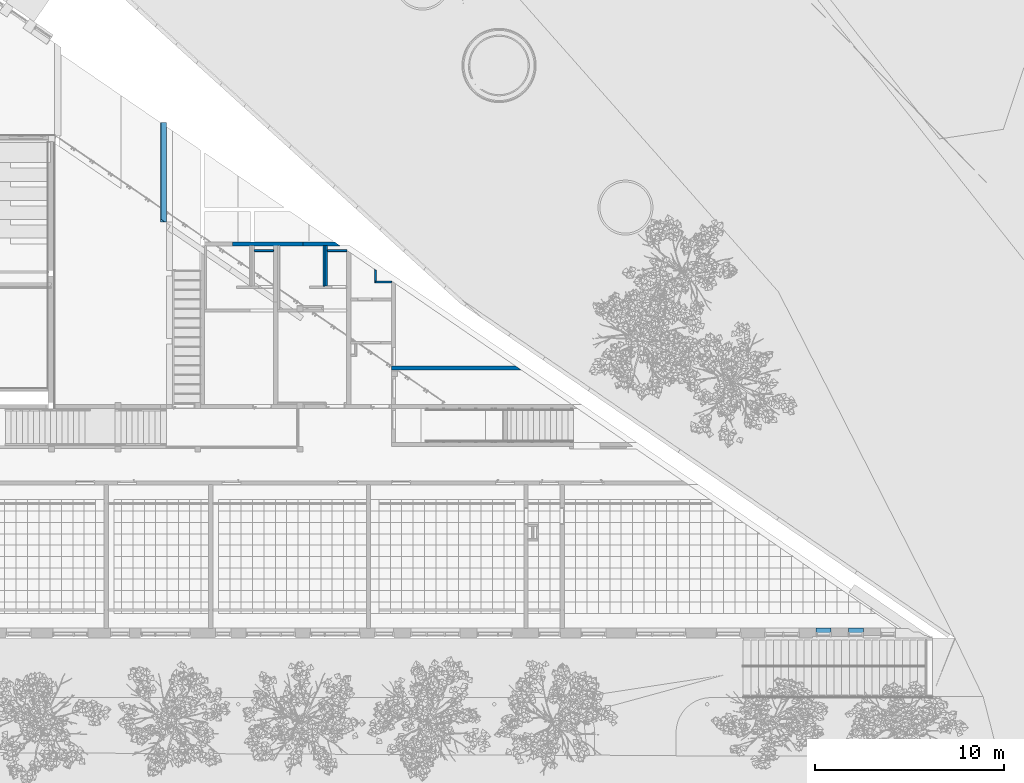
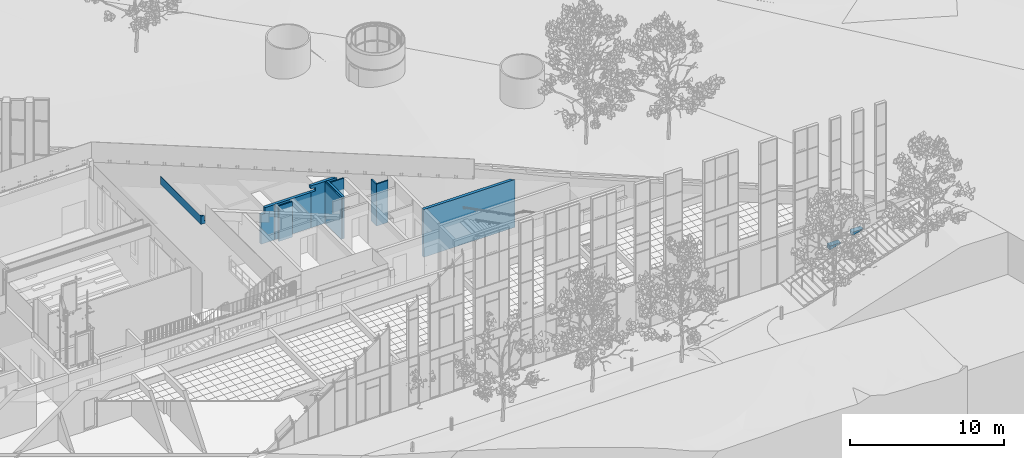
# One storey, part 137 of 246: 12 walls.
"""IFC2X3 building model written with IfcOpenShell, lengths in millimetres."""

from ifc_helpers import new_model, entity, si_unit, converted_unit, derived_unit, money_unit, direction, frame, origin_with_axes, place, context, subcontext, project, spatial, faceted_brep, material, material_list, type_object, element, save


model = new_model("IFC2X3")

# Units and contexts
model_context = context("Model", 3, precision=0.01, world=origin_with_axes(), true_north=direction((0.0, 1.0)))
body_context = subcontext(model_context, "Body", "Model", "MODEL_VIEW")
ifc_project = project(units=[si_unit("LENGTHUNIT", "METRE", prefix="MILLI"), si_unit("AREAUNIT", "SQUARE_METRE"), si_unit("VOLUMEUNIT", "CUBIC_METRE"), converted_unit("PLANEANGLEUNIT", "DEGREE", entity("IfcPlaneAngleMeasure", 0.0174532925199), si_unit("PLANEANGLEUNIT", "RADIAN"), dimensions=[0, 0, 0, 0, 0, 0, 0]), si_unit("SOLIDANGLEUNIT", "STERADIAN"), money_unit("EUR"), converted_unit("TIMEUNIT", "Year", entity("IfcTimeMeasure", 31556926.0), si_unit("TIMEUNIT", "SECOND"), dimensions=[0, 0, 1, 0, 0, 0, 0]), si_unit("MASSUNIT", "GRAM", prefix="KILO"), si_unit("THERMODYNAMICTEMPERATUREUNIT", "DEGREE_CELSIUS"), si_unit("LUMINOUSINTENSITYUNIT", "LUMEN"), si_unit("ENERGYUNIT", "JOULE", prefix="MEGA"), derived_unit("THERMALCONDUCTANCEUNIT", [(si_unit("POWERUNIT", "WATT"), 1), (si_unit("LENGTHUNIT", "METRE"), -1), (si_unit("THERMODYNAMICTEMPERATUREUNIT", "KELVIN"), -1)]), derived_unit("SPECIFICHEATCAPACITYUNIT", [(si_unit("ENERGYUNIT", "JOULE"), 1), (si_unit("MASSUNIT", "GRAM", prefix="KILO"), -1), (si_unit("THERMODYNAMICTEMPERATUREUNIT", "KELVIN"), -1)]), derived_unit("MASSDENSITYUNIT", [(si_unit("MASSUNIT", "GRAM", prefix="KILO"), 1), (si_unit("VOLUMEUNIT", "CUBIC_METRE"), -1)])], contexts=[model_context])

# Site, building, storey
site_placement = place(None, origin_with_axes())
site = spatial("IfcSite", under=ifc_project, at=site_placement, Name="L.Koidula tn 11b", CompositionType="ELEMENT")
building_placement = place(site_placement, origin_with_axes())
building = spatial("IfcBuilding", under=site, at=building_placement, Name="Rakvere Riigigümnaasium", CompositionType="ELEMENT")
storey_placement = place(building_placement, origin_with_axes())
storey = spatial("IfcBuildingStorey", under=building, at=storey_placement, Name="1.korrus 0,00", CompositionType="ELEMENT", Elevation=0.0)

# Walls
ifc_material_1 = material(Name="siseviimistlus-seinad")
ifc_material_2 = material(Name="Betoon element / plaat")
ifc_material_list_1 = material_list([ifc_material_1, ifc_material_2, ifc_material_1])
wall_type_1 = type_object("IfcWallType", Name="SS-01-2 220", PredefinedType="NOTDEFINED")
wall_1_placement = place(storey_placement, frame((82837.9762117, 19135.3890009, 0.0), z_axis=(0.0, 0.0, 1.0), x_axis=(-1.0, 0.0, 0.0)))
element("IfcWall", 1, at=wall_1_placement, inside=storey, type_object=wall_type_1, material=ifc_material_list_1, Name="Sisesein", context=body_context, shape_type="Brep", body=[
    faceted_brep([(-7.58859641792e-08, 5.20472553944e-08, 3790.0), (-14.5798724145, 10.0000000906, 3790.0), (-14.5798722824, 10.0, 0.0), (0.0, 0.0, 0.0), (6647.99483758, 10.0000006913, 3790.0), (6647.99482935, 3.92333276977e-07, 3790.0), (6647.99483758, 10.0, 0.0), (6647.99482935, 0.0, 0.0)], [[[0, 1, 2, 3]], [[4, 1, 0, 5]], [[1, 4, 6, 2]], [[2, 6, 7, 3]], [[5, 0, 3, 7]], [[4, 5, 7, 6]]]),
    faceted_brep([(291.597445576, -199.99999995, 3790.0), (-7.58859641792e-08, 5.20472553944e-08, 3790.0), (0.0, 0.0, 0.0), (291.597445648, -200.0, 0.0), (6847.99482935, 3.55303342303e-07, 3790.0), (6847.9948138, -199.999999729, 3790.0), (6847.99482935, 0.0, 0.0), (6847.99466465, -200.0, 0.0)], [[[0, 1, 2, 3]], [[4, 1, 0, 5]], [[1, 4, 6, 2]], [[2, 6, 7, 3]], [[5, 0, 3, 7]], [[4, 5, 7, 6]]]),
    faceted_brep([(306.177317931, -210.0, 3790.0), (291.597445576, -199.99999995, 3790.0), (291.597445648, -200.0, 0.0), (306.177317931, -210.0, 0.0), (6847.99482935, -199.999999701, 3790.0), (6847.99482935, -210.0, 3790.0), (6857.9946774, -210.0, 3789.99999702), (6857.99468564, -199.999999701, 3789.99999702), (6857.99468564, -200.0, 0.0), (6857.9946774, -210.0, 0.0)], [[[0, 1, 2, 3]], [[4, 1, 0, 5, 6, 7]], [[1, 4, 7, 8, 2]], [[2, 8, 9, 3]], [[5, 0, 3, 9, 6]], [[8, 7, 6, 9]]]),
])
ifc_material_list_2 = material_list([ifc_material_2, ifc_material_1])
wall_type_2 = type_object("IfcWallType", Name="SS-01-1 210", PredefinedType="NOTDEFINED")
wall_2_placement = place(storey_placement, frame((67576.1373235, 25699.437232, 0.0), z_axis=(0.0, 0.0, 1.0), x_axis=(1.0, 0.0, 0.0)))
element("IfcWall", 2, at=wall_2_placement, inside=storey, type_object=wall_type_2, material=ifc_material_list_2, Name="Sisesein", context=body_context, shape_type="Brep", body=[
    faceted_brep([(288.872178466, 200.0, 2345.0), (288.872178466, 200.0, 2610.0), (288.872178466, 200.0, 2810.0), (3725.0, 200.0, 2810.0), (3725.0, 200.0, 0.0), (0.0, 200.0, 0.0), (0.0, 200.0, 2345.0), (288.872178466, 0.0, 2345.0), (288.872178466, 0.0, 2610.0), (288.872178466, 0.0, 2810.0), (3725.0, 0.0, 2810.0), (3725.0, 0.0, 0.0), (0.0, 0.0, 0.0), (0.0, 0.0, 2345.0)], [[[0, 1, 2, 3, 4, 5, 6]], [[7, 8, 1, 0]], [[8, 9, 2, 1]], [[3, 2, 9, 10]], [[11, 4, 3, 10]], [[11, 12, 5, 4]], [[5, 12, 13, 6]], [[13, 7, 0, 6]], [[10, 9, 8, 7, 13, 12, 11]]]),
    faceted_brep([(288.872178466, 0.0, 2345.0), (288.872178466, 0.0, 2790.0), (288.872178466, 0.0, 2810.0), (962.850013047, 0.0, 2810.0), (962.850013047, 0.0, 0.0), (0.0, 0.0, 0.0), (0.0, 0.0, 2345.0), (288.872178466, -10.0, 2345.0), (288.872178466, -10.0, 2790.0), (288.872178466, -10.0, 2810.0), (962.850013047, -10.0, 2810.0), (962.850013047, -10.0, 0.0), (0.0, -10.0, 0.0), (0.0, -10.0, 2345.0)], [[[0, 1, 2, 3, 4, 5, 6]], [[7, 8, 1, 0]], [[8, 9, 2, 1]], [[3, 2, 9, 10]], [[11, 4, 3, 10]], [[12, 5, 4, 11]], [[5, 12, 13, 6]], [[13, 7, 0, 6]], [[10, 9, 8, 7, 13, 12, 11]]]),
    faceted_brep([(1028.85001305, 0.0, 2810.0), (1038.85001305, 0.0, 2810.0), (1038.85001305, 0.0, 0.0), (1028.85001305, 0.0, 0.0), (1038.85001305, -10.0, 2810.0), (1028.85001305, -10.0, 2810.0), (1038.85001305, -10.0, 0.0), (1028.85001305, -10.0, 0.0)], [[[0, 1, 2, 3]], [[4, 1, 0, 5]], [[1, 4, 6, 2]], [[2, 6, 7, 3]], [[5, 0, 3, 7]], [[4, 5, 7, 6]]]),
    faceted_brep([(1158.85001305, 0.0, 2810.0), (2398.85000631, 0.0, 2810.0), (2398.85000631, 0.0, 0.0), (1158.85001305, 0.0, 0.0), (2398.85000631, -10.0, 2810.0), (1158.85001305, -10.0, 2810.0), (2398.85000631, -10.0, 0.0), (1158.85001305, -10.0, 0.0)], [[[0, 1, 2, 3]], [[4, 1, 0, 5]], [[1, 4, 6, 2]], [[2, 6, 7, 3]], [[5, 0, 3, 7]], [[4, 5, 7, 6]]]),
    faceted_brep([(2464.85000631, 0.0, 2810.0), (3725.0, 0.0, 2810.0), (3725.0, 0.0, 0.0), (2464.85000631, 0.0, 0.0), (3725.0, -10.0, 2810.0), (2464.85000631, -10.0, 2810.0), (3725.0, -10.0, 0.0), (2464.85000631, -10.0, 0.0)], [[[0, 1, 2, 3]], [[4, 1, 0, 5]], [[1, 4, 6, 2]], [[3, 2, 6, 7]], [[5, 0, 3, 7]], [[4, 5, 7, 6]]]),
])
wall_3_placement = place(storey_placement, frame((71301.1373235, 25699.437232, 0.0), z_axis=(0.0, 0.0, 1.0), x_axis=(1.0, 0.0, 0.0)))
element("IfcWall", 3, at=wall_3_placement, inside=storey, type_object=wall_type_2, material=ifc_material_list_2, Name="Sisesein", context=body_context, shape_type="Brep", body=[
    faceted_brep([(0.0, 200.0, 2810.0), (358.860839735, 200.0, 2810.0), (358.860839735, 200.0, 3075.0), (0.0, 200.0, 3075.0), (0.0, 200.0, 3325.0), (1674.9279648, 200.0, 3325.0), (1674.9279648, 200.0, 0.0), (0.0, 200.0, 0.0), (0.0, 0.0, 2810.0), (358.860835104, 0.0, 2810.0), (358.860835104, 0.0, 3075.0), (0.0, 0.0, 3075.0), (0.0, 0.0, 3325.0), (1966.52463822, 0.0, 3325.0), (1966.52463822, 0.0, 0.0), (0.0, 0.0, 0.0)], [[[0, 1, 2, 3, 4, 5, 6, 7]], [[1, 0, 8, 9]], [[2, 1, 9, 10]], [[3, 2, 10, 11]], [[3, 11, 12, 4]], [[13, 5, 4, 12]], [[14, 6, 5, 13]], [[6, 14, 15, 7]], [[8, 0, 7, 15]], [[9, 8, 15, 14, 13, 12, 11, 10]]]),
    faceted_brep([(38.8607494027, -10.0, 3255.0), (38.8607494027, 0.0, 3255.0), (38.8607494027, 0.0, 3325.0), (38.8607494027, -10.0, 3325.0), (0.0, 0.0, 3255.0), (0.0, -10.0, 3255.0), (0.0, 0.0, 3325.0), (0.0, -10.0, 3325.0)], [[[0, 1, 2, 3]], [[4, 1, 0, 5]], [[1, 4, 6, 2]], [[7, 3, 2, 6]], [[5, 0, 3, 7]], [[4, 5, 7, 6]]]),
    faceted_brep([(0.0, 0.0, 2810.0), (358.860835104, 0.0, 2810.0), (358.860835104, 0.0, 3075.0), (358.860749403, 0.0, 3325.0), (1178.86085415, 0.0, 3325.0), (1178.86085415, 0.0, 0.0), (1168.86085415, 0.0, 0.0), (1168.86085415, 0.0, 3255.0), (1102.86085415, 0.0, 3255.0), (1102.86085415, 0.0, 0.0), (0.0, 0.0, 0.0), (0.0, -10.0, 2810.0), (358.860834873, -10.0, 2810.0), (358.860834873, -10.0, 3075.0), (358.860749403, -10.0, 3325.0), (1178.86085415, -10.0, 3325.0), (1178.86085415, -10.0, 0.0), (1168.86085415, -10.0, 0.0), (1168.86085415, -10.0, 3255.0), (1102.86085415, -10.0, 3255.0), (1102.86085415, -10.0, 0.0), (0.0, -10.0, 0.0)], [[[0, 1, 2, 3, 4, 5, 6, 7, 8, 9, 10]], [[1, 0, 11, 12]], [[2, 1, 12, 13, 14, 3]], [[4, 3, 14, 15]], [[15, 16, 5, 4]], [[16, 17, 6, 5]], [[18, 7, 6, 17]], [[19, 8, 7, 18]], [[20, 9, 8, 19]], [[10, 9, 20, 21]], [[11, 0, 10, 21]], [[12, 11, 21, 20, 19, 18, 17, 16, 15, 14, 13]]]),
    faceted_brep([(1981.10447189, -10.0, 0.0), (1298.86085415, -10.0, 0.0), (1298.86085415, 0.0, 0.0), (1966.52463822, 0.0, 0.0), (1981.10447189, -10.0, 3325.0), (1298.86085415, -10.0, 3325.0), (1298.86085415, 0.0, 3325.0), (1966.52463822, 0.0, 3325.0)], [[[0, 1, 2, 3]], [[4, 5, 1, 0]], [[2, 1, 5, 6]], [[3, 2, 6, 7]], [[3, 7, 4, 0]], [[7, 6, 5, 4]]]),
])
ifc_material_3 = material(Name="FF-PIR soojustus-2")
ifc_material_4 = material(Name="Betoon-element")
ifc_material_5 = material(Name="Krohv")
ifc_material_list_3 = material_list([ifc_material_3, ifc_material_4, ifc_material_5])
wall_type_3 = type_object("IfcWallType", Name="VS-01-3 390", PredefinedType="NOTDEFINED")
wall_4_placement = place(storey_placement, frame((99199.9657125, 5500.45553887, 1229.40615321), z_axis=(0.0, 0.0, 1.0), x_axis=(-1.0, 0.0, 0.0)))
element("IfcWall", 4, at=wall_4_placement, inside=storey, type_object=wall_type_3, material=ifc_material_list_3, Name="Välissein", context=body_context, shape_type="Brep", body=[
    faceted_brep([(0.0, 380.0, 256.235960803), (0.0, 200.0, 256.235960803), (0.0, 200.0, 308.093847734), (0.0, 380.0, 308.093847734), (800.0, 200.0, 0.0), (800.0, 380.0, 0.0), (800.0, 200.0, 308.093847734), (800.0, 380.0, 308.093847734)], [[[0, 1, 2, 3]], [[4, 1, 0, 5]], [[1, 4, 6, 2]], [[2, 6, 7, 3]], [[5, 0, 3, 7]], [[4, 5, 7, 6]]]),
    faceted_brep([(0.0, 200.0, 256.235960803), (0.0, 0.0, 256.235960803), (0.0, 0.0, 308.093847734), (0.0, 200.0, 308.093847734), (800.0, 0.0, 0.0), (800.0, 200.0, 0.0), (800.0, 0.0, 308.093847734), (800.0, 200.0, 308.093847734)], [[[0, 1, 2, 3]], [[4, 1, 0, 5]], [[1, 4, 6, 2]], [[2, 6, 7, 3]], [[5, 0, 3, 7]], [[4, 5, 7, 6]]]),
    faceted_brep([(0.0, 0.0, 256.235960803), (0.0, -10.0, 256.235960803), (0.0, -10.0, 308.093847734), (0.0, 0.0, 308.093847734), (800.0, -10.0, 0.0), (800.0, 0.0, 0.0), (800.0, -10.0, 308.093847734), (800.0, 0.0, 308.093847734)], [[[0, 1, 2, 3]], [[4, 1, 0, 5]], [[1, 4, 6, 2]], [[2, 6, 7, 3]], [[5, 0, 3, 7]], [[4, 5, 7, 6]]]),
])
wall_5_placement = place(storey_placement, frame((100899.965712, 5500.45553887, 1773.90756991), z_axis=(0.0, 0.0, 1.0), x_axis=(-1.0, 0.0, 0.0)))
element("IfcWall", 5, at=wall_5_placement, inside=storey, type_object=wall_type_3, material=ifc_material_list_3, Name="Välissein", context=body_context, shape_type="Brep", body=[
    faceted_brep([(0.0, 380.0, 256.235960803), (0.0, 200.0, 256.235960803), (0.0, 200.0, 274.092430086), (0.0, 380.0, 274.092430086), (800.0, 200.0, 0.0), (800.0, 380.0, 0.0), (800.0, 200.0, 274.092430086), (800.0, 380.0, 274.092430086)], [[[0, 1, 2, 3]], [[4, 1, 0, 5]], [[1, 4, 6, 2]], [[2, 6, 7, 3]], [[5, 0, 3, 7]], [[4, 5, 7, 6]]]),
    faceted_brep([(0.0, 200.0, 256.235960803), (0.0, 0.0, 256.235960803), (0.0, 0.0, 274.092430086), (0.0, 200.0, 274.092430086), (800.0, 0.0, 0.0), (800.0, 200.0, 0.0), (800.0, 0.0, 274.092430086), (800.0, 200.0, 274.092430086)], [[[0, 1, 2, 3]], [[4, 1, 0, 5]], [[1, 4, 6, 2]], [[2, 6, 7, 3]], [[5, 0, 3, 7]], [[4, 5, 7, 6]]]),
    faceted_brep([(0.0, 0.0, 256.235960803), (0.0, -10.0, 256.235960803), (0.0, -10.0, 274.092430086), (0.0, 0.0, 274.092430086), (800.0, -10.0, 0.0), (800.0, 0.0, 0.0), (800.0, -10.0, 274.092430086), (800.0, 0.0, 274.092430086)], [[[0, 1, 2, 3]], [[4, 1, 0, 5]], [[1, 4, 6, 2]], [[2, 6, 7, 3]], [[5, 0, 3, 7]], [[4, 5, 7, 6]]]),
])
ifc_material_6 = material(Name="Parkett-2")
ifc_material_7 = material(Name="Viineer")
ifc_material_list_4 = material_list([ifc_material_6, ifc_material_7, ifc_material_2])
wall_type_4 = type_object("IfcWallType", Name="SS-01-3 320", PredefinedType="NOTDEFINED")
wall_6_placement = place(storey_placement, frame((63810.020931, 26942.686106, 2145.0), z_axis=(0.0, 0.0, 1.0), x_axis=(0.0, 1.0, 0.0)))
element("IfcWall", 6, at=wall_6_placement, inside=storey, type_object=wall_type_4, material=ifc_material_list_4, Name="Sisesein", context=body_context, shape_type="Brep", body=[
    faceted_brep([(5257.24833717, 20.0, 645.0), (0.0, 20.0, 645.0), (0.0, 10.0, 645.0), (5250.38956262, 10.0, 645.0), (5257.24833717, 20.0, 0.0), (0.0, 20.0, 0.0), (0.0, 10.0, 0.0), (5250.38956262, 10.0, 0.0)], [[[0, 1, 2, 3]], [[4, 5, 1, 0]], [[2, 1, 5, 6]], [[3, 2, 6, 7]], [[3, 7, 4, 0]], [[7, 6, 5, 4]]]),
    faceted_brep([(5250.38956262, 10.0, 465.0), (5243.53078806, 0.0, 465.0), (5243.53078806, 0.0, 0.0), (5250.38956262, 10.0, 0.0), (157.060006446, 0.0, 465.0), (163.918339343, 10.0, 465.0), (157.060006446, 0.0, 645.0), (0.0, 0.0, 645.0), (0.0, 0.0, 0.0), (0.0, 10.0, 0.0), (0.0, 10.0, 645.0), (163.918339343, 10.0, 645.0)], [[[0, 1, 2, 3]], [[4, 1, 0, 5]], [[4, 6, 7, 8, 2, 1]], [[3, 2, 8, 9]], [[5, 0, 3, 9, 10, 11]], [[4, 5, 11, 6]], [[6, 11, 10, 7]], [[8, 7, 10, 9]]]),
    faceted_brep([(5257.24833717, 0.0, 200.0), (5257.24833717, -300.0, 200.0), (5257.24833717, -300.0, 0.0), (5257.24833717, 0.0, 0.0), (0.0, -300.0, 200.0), (157.060006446, 0.0, 200.0), (0.0, -229.00609931, 200.0), (0.0, -300.0, 0.0), (0.0, 0.0, 0.0), (0.0, 0.0, 645.0), (157.060006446, 0.0, 645.0), (0.0, -229.00609931, 645.0)], [[[0, 1, 2, 3]], [[4, 1, 0, 5, 6]], [[1, 4, 7, 2]], [[8, 3, 2, 7]], [[5, 0, 3, 8, 9, 10]], [[6, 5, 10, 11]], [[6, 11, 9, 8, 7, 4]], [[11, 10, 9]]]),
])
ifc_material_8 = material(Name="Karkass")
ifc_material_9 = material(Name="Kipsplaat-erikõva")
ifc_material_10 = material(Name="Polükarbamiid")
ifc_material_list_5 = material_list([ifc_material_8, ifc_material_9, ifc_material_9, ifc_material_10])
wall_type_5 = type_object("IfcWallType", Name="SS-09-1 97", PredefinedType="NOTDEFINED")
wall_7_placement = place(storey_placement, frame((75089.9560039, 24449.5637277, 0.0), z_axis=(0.0, 0.0, 1.0), x_axis=(0.0, -1.0, 0.0)))
element("IfcWall", 7, at=wall_7_placement, inside=storey, type_object=wall_type_5, material=ifc_material_list_5, Name="Sisesein", context=body_context, shape_type="Brep", body=[
    faceted_brep([(20.918799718, 30.5, 3325.0), (66.1868058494, 96.5, 3325.0), (66.1868058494, 96.5, 0.0), (20.918799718, 30.5, 0.0), (623.126551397, 96.5, 3325.0), (623.126551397, 30.5, 3325.0), (623.126551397, 96.5, 0.0), (623.126551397, 30.5, 0.0)], [[[0, 1, 2, 3]], [[4, 1, 0, 5]], [[1, 4, 6, 2]], [[6, 7, 3, 2]], [[5, 0, 3, 7]], [[4, 5, 7, 6]]]),
    faceted_brep([(12.3453137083, 18.0, 3325.0), (20.918799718, 30.5, 3325.0), (20.918799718, 30.5, 0.0), (12.3453137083, 18.0, 0.0), (689.126551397, 30.5, 3325.0), (689.126551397, 18.0, 3325.0), (689.126551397, 30.5, 0.0), (689.126551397, 18.0, 0.0)], [[[0, 1, 2, 3]], [[4, 1, 0, 5]], [[1, 4, 6, 2]], [[6, 7, 3, 2]], [[5, 0, 3, 7]], [[4, 5, 7, 6]]]),
    faceted_brep([(3.42888825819, 5.0, 3325.0), (12.3453137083, 18.0, 3325.0), (12.3453137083, 18.0, 0.0), (3.42888825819, 5.0, 0.0), (701.626551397, 18.0, 3325.0), (701.626551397, 5.0, 3325.0), (701.626551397, 18.0, 0.0), (701.626551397, 5.0, 0.0)], [[[0, 1, 2, 3]], [[4, 1, 0, 5]], [[1, 4, 6, 2]], [[6, 7, 3, 2]], [[5, 0, 3, 7]], [[4, 5, 7, 6]]]),
    faceted_brep([(-0.000506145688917, 0.0, 3325.0), (3.42888825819, 5.0, 3325.0), (3.42888825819, 5.0, 0.0), (-0.000506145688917, 0.0, 0.0), (714.626551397, 5.0, 3325.0), (714.626551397, 0.0, 3325.0), (714.626551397, 5.0, 0.0), (714.626551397, 0.0, 0.0)], [[[0, 1, 2, 3]], [[4, 1, 0, 5]], [[1, 4, 6, 2]], [[6, 7, 3, 2]], [[5, 0, 3, 7]], [[4, 5, 7, 6]]]),
])
wall_8_placement = place(storey_placement, frame((75089.9560039, 23729.9371763, 0.0), z_axis=(0.0, 0.0, 1.0), x_axis=(1.0, 0.0, 0.0)))
element("IfcWall", 8, at=wall_8_placement, inside=storey, type_object=wall_type_5, material=ifc_material_list_5, Name="Sisesein", context=body_context, shape_type="Brep", body=[
    faceted_brep([(30.5, 96.5, 3325.0), (890.023883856, 96.5, 3325.0), (890.023883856, 96.5, 3350.0), (900.020987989, 96.5, 3350.0), (900.020987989, 96.5, 0.0), (30.5, 96.5, 0.0), (30.5, 30.5, 3325.0), (890.023883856, 30.5, 3325.0), (890.023883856, 30.5, 3350.0), (900.020987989, 30.5, 3350.0), (900.020987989, 30.5, 0.0), (30.5, 30.5, 0.0)], [[[0, 1, 2, 3, 4, 5]], [[1, 0, 6, 7]], [[8, 2, 1, 7]], [[2, 8, 9, 3]], [[10, 4, 3, 9]], [[4, 10, 11, 5]], [[6, 0, 5, 11]], [[7, 6, 11, 10, 9, 8]]]),
    faceted_brep([(18.0, 30.5, 3325.0), (890.023883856, 30.5, 3325.0), (890.020987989, 30.5, 0.0), (18.0, 30.5, 0.0), (890.023883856, 18.0, 3325.0), (18.0, 18.0, 3325.0), (890.020987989, 18.0, 0.0), (18.0, 18.0, 0.0)], [[[0, 1, 2, 3]], [[4, 1, 0, 5]], [[1, 4, 6, 2]], [[2, 6, 7, 3]], [[5, 0, 3, 7]], [[4, 5, 7, 6]]]),
    faceted_brep([(5.0, 18.0, 3325.0), (890.023883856, 18.0, 3325.0), (890.020987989, 18.0, 0.0), (5.0, 18.0, 0.0), (890.023883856, 5.0, 3325.0), (5.0, 5.0, 3325.0), (890.020987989, 5.0, 0.0), (5.0, 5.0, 0.0)], [[[0, 1, 2, 3]], [[4, 1, 0, 5]], [[1, 4, 6, 2]], [[2, 6, 7, 3]], [[5, 0, 3, 7]], [[4, 5, 7, 6]]]),
    faceted_brep([(0.0, 5.0, 3325.0), (890.023883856, 5.0, 3325.0), (890.020987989, 5.0, 0.0), (0.0, 5.0, 0.0), (890.023883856, 0.0, 3325.0), (0.0, 0.0, 3325.0), (890.020987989, 0.0, 0.0), (0.0, 0.0, 0.0)], [[[0, 1, 2, 3]], [[4, 1, 0, 5]], [[1, 4, 6, 2]], [[2, 6, 7, 3]], [[5, 0, 3, 7]], [[4, 5, 7, 6]]]),
])
wall_9_placement = place(storey_placement, frame((68599.9873365, 25391.4158914, 0.0), z_axis=(0.0, 0.0, 1.0), x_axis=(1.0, 0.0, 0.0)))
element("IfcWall", 9, at=wall_9_placement, inside=storey, type_object=wall_type_5, material=ifc_material_list_5, Name="Sisesein", context=body_context, shape_type="Brep", body=[
    faceted_brep([(135.0, 96.4999997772, 2810.0), (1164.99999326, 96.499998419, 2810.0), (1164.99999326, 96.5, 0.0), (135.0, 96.5, 0.0), (1164.99999326, 30.4999983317, 2810.0), (135.0, 30.4999997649, 2810.0), (1164.99999326, 30.5, 0.0), (135.0, 30.5, 0.0)], [[[0, 1, 2, 3]], [[4, 1, 0, 5]], [[1, 4, 6, 2]], [[3, 2, 6, 7]], [[5, 0, 3, 7]], [[4, 5, 7, 6]]]),
    faceted_brep([(135.0, 30.4999997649, 2810.0), (1154.99999326, 30.4999983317, 2810.0), (1154.99999326, 30.5, 0.0), (135.0, 30.5, 0.0), (1154.99999326, 18.0, 2810.0), (135.0, 18.0, 2810.0), (1154.99999326, 18.0, 0.0), (135.0, 18.0, 0.0)], [[[0, 1, 2, 3]], [[4, 1, 0, 5]], [[1, 4, 6, 2]], [[3, 2, 6, 7]], [[5, 0, 3, 7]], [[4, 5, 7, 6]]]),
    faceted_brep([(135.0, 18.0, 2810.0), (1154.99999326, 18.0, 2810.0), (1154.99999326, 18.0, 0.0), (135.0, 18.0, 0.0), (1154.99999326, 4.99999764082, 2810.0), (135.0, 4.99999966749, 2810.0), (1154.99999326, 5.0, 0.0), (135.0, 5.0, 0.0)], [[[0, 1, 2, 3]], [[4, 1, 0, 5]], [[1, 4, 6, 2]], [[3, 2, 6, 7]], [[5, 0, 3, 7]], [[4, 5, 7, 6]]]),
    faceted_brep([(150.0, 4.99999964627, 2810.0), (1149.99999326, 4.99999764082, 2810.0), (1149.99999326, 5.0, 0.0), (150.0, 5.0, 0.0), (1149.99999326, 0.0, 2810.0), (150.0, 0.0, 2810.0), (1149.99999326, 0.0, 0.0), (150.0, 0.0, 0.0)], [[[0, 1, 2, 3]], [[4, 1, 0, 5]], [[1, 4, 6, 2]], [[3, 2, 6, 7]], [[5, 0, 3, 7]], [[4, 5, 7, 6]]]),
])
ifc_material_list_6 = material_list([ifc_material_10, ifc_material_9, ifc_material_9, ifc_material_8])
wall_10_placement = place(storey_placement, frame((72373.4981776, 23431.4425696, 0.0), z_axis=(0.0, 0.0, 1.0), x_axis=(0.0, 1.0, 0.0)))
element("IfcWall", 10, at=wall_10_placement, inside=storey, type_object=wall_type_5, material=ifc_material_list_6, Name="Sisesein", context=body_context, shape_type="Brep", body=[
    faceted_brep([(2257.99466233, 0.0, 3255.0), (150.0, 0.0, 3255.0), (149.999998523, -5.0, 3255.0), (2257.99466233, -5.0, 3255.0), (2257.99466233, 0.0, 0.0), (150.0, 0.0, 0.0), (149.999998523, -5.0, 0.0), (2257.99466233, -5.0, 0.0)], [[[0, 1, 2, 3]], [[4, 5, 1, 0]], [[2, 1, 5, 6]], [[3, 2, 6, 7]], [[3, 7, 4, 0]], [[7, 6, 5, 4]]]),
    faceted_brep([(2257.99466233, -5.0, 3255.0), (134.999998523, -5.0, 3255.0), (134.999994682, -18.0, 3255.0), (2257.99466233, -18.0, 3255.0), (2257.99466233, -5.0, 0.0), (134.999998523, -5.0, 0.0), (134.999994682, -18.0, 0.0), (2257.99466233, -18.0, 0.0)], [[[0, 1, 2, 3]], [[4, 5, 1, 0]], [[2, 1, 5, 6]], [[3, 2, 6, 7]], [[3, 7, 4, 0]], [[7, 6, 5, 4]]]),
    faceted_brep([(2257.99466233, -18.0, 3255.0), (134.999994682, -18.0, 3255.0), (134.999990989, -30.5, 3255.0), (2257.99466233, -30.5, 3255.0), (2257.99466233, -18.0, 0.0), (134.999994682, -18.0, 0.0), (134.999990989, -30.5, 0.0), (2257.99466233, -30.5, 0.0)], [[[0, 1, 2, 3]], [[4, 5, 1, 0]], [[2, 1, 5, 6]], [[3, 2, 6, 7]], [[3, 7, 4, 0]], [[7, 6, 5, 4]]]),
    faceted_brep([(2267.99466233, -30.5, 3255.0), (134.999990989, -30.5, 3255.0), (134.999971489, -96.5, 3255.0), (2267.99466233, -96.5, 3255.0), (2267.99466233, -30.5, 0.0), (134.999990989, -30.5, 0.0), (134.999971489, -96.5, 0.0), (2267.99466233, -96.5, 0.0)], [[[0, 1, 2, 3]], [[4, 5, 1, 0]], [[2, 1, 5, 6]], [[3, 2, 6, 7]], [[3, 7, 4, 0]], [[7, 6, 5, 4]]]),
])
wall_11_placement = place(storey_placement, frame((72464.9981776, 25391.4158914, 0.0), z_axis=(0.0, 0.0, 1.0), x_axis=(1.0, 0.0, 0.0)))
element("IfcWall", 11, at=wall_11_placement, inside=storey, type_object=wall_type_5, material=ifc_material_list_5, Name="Sisesein", context=body_context, shape_type="Brep", body=[
    faceted_brep([(135.0, 96.5, 3325.0), (1164.99999326, 96.5, 3325.0), (1164.99999326, 96.5, 0.0), (135.0, 96.5, 0.0), (1164.99999326, 30.5, 3325.0), (135.0, 30.499999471, 3325.0), (1164.99999326, 30.5, 0.0), (135.0, 30.5, 0.0)], [[[0, 1, 2, 3]], [[4, 1, 0, 5]], [[1, 4, 6, 2]], [[6, 7, 3, 2]], [[5, 0, 3, 7]], [[4, 5, 7, 6]]]),
    faceted_brep([(135.0, 30.499999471, 3325.0), (1164.99999326, 30.5, 3325.0), (1164.99999326, 30.5, 0.0), (135.0, 30.5, 0.0), (1164.99999326, 18.0, 3325.0), (135.0, 18.0, 3325.0), (1164.99999326, 18.0, 0.0), (135.0, 18.0, 0.0)], [[[0, 1, 2, 3]], [[4, 1, 0, 5]], [[1, 4, 6, 2]], [[6, 7, 3, 2]], [[5, 0, 3, 7]], [[4, 5, 7, 6]]]),
    faceted_brep([(135.0, 18.0, 3325.0), (1164.99999326, 18.0, 3325.0), (1164.99999326, 18.0, 0.0), (135.0, 18.0, 0.0), (1164.99999326, 5.0, 3325.0), (135.0, 5.00000014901, 3325.0), (1164.99999326, 5.0, 0.0), (135.0, 5.0, 0.0)], [[[0, 1, 2, 3]], [[4, 1, 0, 5]], [[1, 4, 6, 2]], [[6, 7, 3, 2]], [[5, 0, 3, 7]], [[4, 5, 7, 6]]]),
    faceted_brep([(150.0, 5.00000014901, 3325.0), (1164.99999326, 5.0, 3325.0), (1164.99999326, 5.0, 0.0), (150.0, 5.0, 0.0), (1164.99999326, 0.0, 3325.0), (150.0, 0.0, 3325.0), (1164.99999326, 0.0, 0.0), (150.0, 0.0, 0.0)], [[[0, 1, 2, 3]], [[4, 1, 0, 5]], [[1, 4, 6, 2]], [[6, 7, 3, 2]], [[5, 0, 3, 7]], [[4, 5, 7, 6]]]),
])
ifc_material_11 = material(Name="Silikaat plokk")
ifc_material_list_7 = material_list([ifc_material_10, ifc_material_5, ifc_material_11, ifc_material_5, ifc_material_10])
wall_type_6 = type_object("IfcWallType", Name="SS-05-2 150", PredefinedType="NOTDEFINED")
wall_12_placement = place(storey_placement, frame((72464.9981776, 23431.4425426, 0.0), z_axis=(0.0, 0.0, 1.0), x_axis=(0.0, 1.0, 0.0)))
element("IfcWall", 12, at=wall_12_placement, inside=storey, type_object=wall_type_6, material=ifc_material_list_7, Name="Sisesein", context=body_context, shape_type="Brep", body=[
    faceted_brep([(2257.99468936, 0.0, 3325.0), (150.0, 0.0, 3325.0), (149.999998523, -5.0, 3325.0), (2257.99468936, -5.0, 3325.0), (2257.99468936, 0.0, 0.0), (150.0, 0.0, 0.0), (149.999998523, -5.0, 0.0), (2257.99468936, -5.0, 0.0)], [[[0, 1, 2, 3]], [[4, 5, 1, 0]], [[2, 1, 5, 6]], [[3, 2, 6, 7]], [[3, 7, 4, 0]], [[7, 6, 5, 4]]]),
    faceted_brep([(2257.99468936, -5.0, 3325.0), (144.999998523, -5.0, 3325.0), (144.999995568, -15.0, 3325.0), (2257.99468936, -15.0, 3325.0), (2257.99468936, -5.0, 0.0), (144.999998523, -5.0, 0.0), (144.999995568, -15.0, 0.0), (2257.99468936, -15.0, 0.0)], [[[0, 1, 2, 3]], [[4, 5, 1, 0]], [[2, 1, 5, 6]], [[3, 2, 6, 7]], [[3, 7, 4, 0]], [[7, 6, 5, 4]]]),
    faceted_brep([(2267.99468936, -15.0, 3325.0), (134.999995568, -15.0, 3325.0), (134.999960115, -135.0, 3325.0), (2267.99468936, -135.0, 3325.0), (2267.99468936, -15.0, 0.0), (134.999995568, -15.0, 0.0), (134.999960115, -135.0, 0.0), (2267.99468936, -135.0, 0.0)], [[[0, 1, 2, 3]], [[4, 5, 1, 0]], [[2, 1, 5, 6]], [[3, 2, 6, 7]], [[3, 7, 4, 0]], [[7, 6, 5, 4]]]),
    faceted_brep([(2257.99468936, -135.0, 3325.0), (2056.47334879, -135.0, 3325.0), (2056.47334879, -145.0, 3325.0), (2257.99468936, -145.0, 3325.0), (2257.99468936, -135.0, 0.0), (2056.47334879, -135.0, 0.0), (2056.47334879, -145.0, 0.0), (2257.99468936, -145.0, 0.0)], [[[0, 1, 2, 3]], [[4, 5, 1, 0]], [[2, 1, 5, 6]], [[3, 2, 6, 7]], [[3, 7, 4, 0]], [[7, 6, 5, 4]]]),
    faceted_brep([(1964.97334879, -135.0, 3325.0), (144.999960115, -135.0, 3325.0), (144.99995716, -145.0, 3325.0), (1964.97334879, -145.0, 3325.0), (1964.97334879, -135.0, 0.0), (144.999960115, -135.0, 0.0), (144.99995716, -145.0, 0.0), (1964.97334879, -145.0, 0.0)], [[[0, 1, 2, 3]], [[4, 5, 1, 0]], [[2, 1, 5, 6]], [[3, 2, 6, 7]], [[3, 7, 4, 0]], [[7, 6, 5, 4]]]),
    faceted_brep([(2257.99468936, -145.0, 3325.0), (2056.47334879, -145.0, 3325.0), (2056.47334879, -150.0, 3325.0), (2257.99468936, -150.0, 3325.0), (2257.99468936, -145.0, 0.0), (2056.47334879, -145.0, 0.0), (2056.47334879, -150.0, 0.0), (2257.99468936, -150.0, 0.0)], [[[0, 1, 2, 3]], [[4, 5, 1, 0]], [[2, 1, 5, 6]], [[3, 2, 6, 7]], [[3, 7, 4, 0]], [[7, 6, 5, 4]]]),
    faceted_brep([(1964.97334879, -145.0, 3325.0), (149.99995716, -145.0, 3325.0), (149.999955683, -150.0, 3325.0), (1964.97334879, -150.0, 3325.0), (1964.97334879, -145.0, 0.0), (149.99995716, -145.0, 0.0), (149.999955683, -150.0, 0.0), (1964.97334879, -150.0, 0.0)], [[[0, 1, 2, 3]], [[4, 5, 1, 0]], [[2, 1, 5, 6]], [[3, 2, 6, 7]], [[3, 7, 4, 0]], [[7, 6, 5, 4]]]),
])

save(model, "model.ifc")
